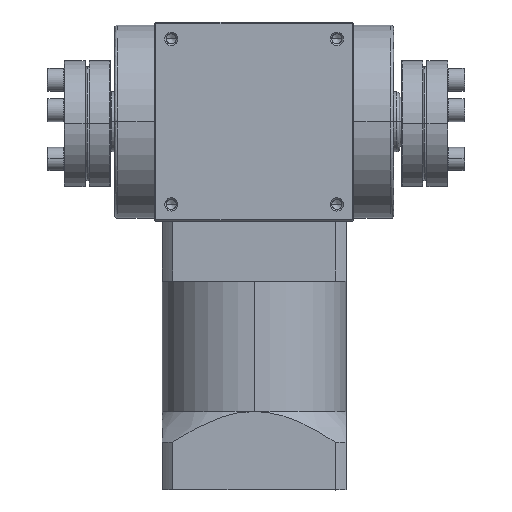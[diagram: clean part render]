
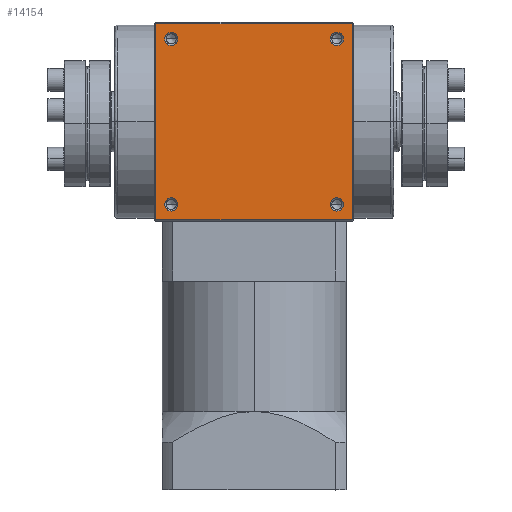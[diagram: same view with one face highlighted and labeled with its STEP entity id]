
A CAD part, top view. The second image highlights one B-rep face of the part: STEP entity #14154.
In plain terms, the highlighted planar face has unit normal (0, 0, 1).
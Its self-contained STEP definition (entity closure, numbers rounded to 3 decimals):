
#12 = EDGE_CURVE ( 'NONE', #14048, #15628, #5116, .T. ) ;
#46 = FACE_BOUND ( 'NONE', #11934, .T. ) ;
#160 = VERTEX_POINT ( 'NONE', #15407 ) ;
#286 = EDGE_LOOP ( 'NONE', ( #7346, #6356 ) ) ;
#393 = CARTESIAN_POINT ( 'NONE',  ( 0., -32., 32.5 ) ) ;
#455 = VERTEX_POINT ( 'NONE', #7461 ) ;
#1013 = EDGE_CURVE ( 'NONE', #3606, #160, #15200, .T. ) ;
#1285 = ORIENTED_EDGE ( 'NONE', *, *, #15383, .F. ) ;
#1314 = VECTOR ( 'NONE', #11630, 1000. ) ;
#1329 = VERTEX_POINT ( 'NONE', #3906 ) ;
#1379 = AXIS2_PLACEMENT_3D ( 'NONE', #7555, #17603, #9041 ) ;
#1713 = AXIS2_PLACEMENT_3D ( 'NONE', #14286, #5649, #15730 ) ;
#1726 = EDGE_CURVE ( 'NONE', #3606, #14048, #14292, .T. ) ;
#1881 = VECTOR ( 'NONE', #9911, 1000. ) ;
#2542 = ORIENTED_EDGE ( 'NONE', *, *, #17175, .F. ) ;
#2599 = CARTESIAN_POINT ( 'NONE',  ( 24.85, 27., 32.5 ) ) ;
#2769 = DIRECTION ( 'NONE',  ( 0., 1., 0. ) ) ;
#2840 = VERTEX_POINT ( 'NONE', #17294 ) ;
#2923 = AXIS2_PLACEMENT_3D ( 'NONE', #13483, #13514, #13635 ) ;
#2987 = CIRCLE ( 'NONE', #15363, 2.15 ) ;
#3061 = DIRECTION ( 'NONE',  ( 1., 0., 0. ) ) ;
#3072 = CARTESIAN_POINT ( 'NONE',  ( -27., -27., 32.5 ) ) ;
#3085 = EDGE_CURVE ( 'NONE', #2840, #8835, #17861, .T. ) ;
#3250 = EDGE_LOOP ( 'NONE', ( #7032, #1285 ) ) ;
#3445 = DIRECTION ( 'NONE',  ( 0., 0., 1. ) ) ;
#3584 = CARTESIAN_POINT ( 'NONE',  ( -32., 32., 32.5 ) ) ;
#3606 = VERTEX_POINT ( 'NONE', #8451 ) ;
#3751 = VECTOR ( 'NONE', #4699, 1000. ) ;
#3906 = CARTESIAN_POINT ( 'NONE',  ( 29.15, -27., 32.5 ) ) ;
#3909 = VERTEX_POINT ( 'NONE', #14282 ) ;
#4473 = DIRECTION ( 'NONE',  ( 1., 0., 0. ) ) ;
#4699 = DIRECTION ( 'NONE',  ( 1., 0., 0. ) ) ;
#4713 = DIRECTION ( 'NONE',  ( 0., 0., 1. ) ) ;
#4790 = ORIENTED_EDGE ( 'NONE', *, *, #14913, .F. ) ;
#4984 = CARTESIAN_POINT ( 'NONE',  ( 27., -27., 32.5 ) ) ;
#5116 = LINE ( 'NONE', #8854, #1314 ) ;
#5337 = CIRCLE ( 'NONE', #1713, 2.15 ) ;
#5615 = CIRCLE ( 'NONE', #1379, 2.15 ) ;
#5649 = DIRECTION ( 'NONE',  ( 0., 0., 1. ) ) ;
#5687 = AXIS2_PLACEMENT_3D ( 'NONE', #17671, #17419, #3061 ) ;
#6134 = EDGE_CURVE ( 'NONE', #15628, #160, #9504, .T. ) ;
#6310 = EDGE_CURVE ( 'NONE', #8089, #3909, #10184, .T. ) ;
#6356 = ORIENTED_EDGE ( 'NONE', *, *, #3085, .F. ) ;
#6444 = DIRECTION ( 'NONE',  ( 1., 0., 0. ) ) ;
#6701 = DIRECTION ( 'NONE',  ( 0., 0., -1. ) ) ;
#6984 = CARTESIAN_POINT ( 'NONE',  ( -32., 0., 32.5 ) ) ;
#7032 = ORIENTED_EDGE ( 'NONE', *, *, #18200, .F. ) ;
#7346 = ORIENTED_EDGE ( 'NONE', *, *, #9658, .F. ) ;
#7461 = CARTESIAN_POINT ( 'NONE',  ( -29.15, -27., 32.5 ) ) ;
#7555 = CARTESIAN_POINT ( 'NONE',  ( 27., 27., 32.5 ) ) ;
#7583 = EDGE_LOOP ( 'NONE', ( #13708, #9305, #12597, #16042 ) ) ;
#7768 = VERTEX_POINT ( 'NONE', #18375 ) ;
#8089 = VERTEX_POINT ( 'NONE', #2599 ) ;
#8112 = PLANE ( 'NONE',  #9577 ) ;
#8331 = ORIENTED_EDGE ( 'NONE', *, *, #6310, .F. ) ;
#8451 = CARTESIAN_POINT ( 'NONE',  ( -32., -32., 32.5 ) ) ;
#8835 = VERTEX_POINT ( 'NONE', #17337 ) ;
#8854 = CARTESIAN_POINT ( 'NONE',  ( 0., 32., 32.5 ) ) ;
#9041 = DIRECTION ( 'NONE',  ( 1., 0., 0. ) ) ;
#9174 = CARTESIAN_POINT ( 'NONE',  ( 24.85, -27., 32.5 ) ) ;
#9305 = ORIENTED_EDGE ( 'NONE', *, *, #6134, .F. ) ;
#9491 = CIRCLE ( 'NONE', #10185, 2.15 ) ;
#9504 = LINE ( 'NONE', #9952, #1881 ) ;
#9577 = AXIS2_PLACEMENT_3D ( 'NONE', #13902, #6701, #16772 ) ;
#9658 = EDGE_CURVE ( 'NONE', #8835, #2840, #17421, .T. ) ;
#9911 = DIRECTION ( 'NONE',  ( 0., -1., 0. ) ) ;
#9952 = CARTESIAN_POINT ( 'NONE',  ( 32., 0., 32.5 ) ) ;
#10184 = CIRCLE ( 'NONE', #2923, 2.15 ) ;
#10185 = AXIS2_PLACEMENT_3D ( 'NONE', #12080, #3445, #13518 ) ;
#10575 = AXIS2_PLACEMENT_3D ( 'NONE', #13361, #4713, #14786 ) ;
#10642 = FACE_BOUND ( 'NONE', #13690, .T. ) ;
#11630 = DIRECTION ( 'NONE',  ( 1., 0., 0. ) ) ;
#11934 = EDGE_LOOP ( 'NONE', ( #17917, #2542 ) ) ;
#12080 = CARTESIAN_POINT ( 'NONE',  ( -27., -27., 32.5 ) ) ;
#12597 = ORIENTED_EDGE ( 'NONE', *, *, #12, .F. ) ;
#13121 = DIRECTION ( 'NONE',  ( 0., 0., 1. ) ) ;
#13361 = CARTESIAN_POINT ( 'NONE',  ( -27., 27., 32.5 ) ) ;
#13483 = CARTESIAN_POINT ( 'NONE',  ( 27., 27., 32.5 ) ) ;
#13514 = DIRECTION ( 'NONE',  ( 0., 0., 1. ) ) ;
#13518 = DIRECTION ( 'NONE',  ( 1., 0., 0. ) ) ;
#13635 = DIRECTION ( 'NONE',  ( 1., 0., 0. ) ) ;
#13690 = EDGE_LOOP ( 'NONE', ( #4790, #8331 ) ) ;
#13708 = ORIENTED_EDGE ( 'NONE', *, *, #1013, .T. ) ;
#13902 = CARTESIAN_POINT ( 'NONE',  ( 32., -32., 32.5 ) ) ;
#14048 = VERTEX_POINT ( 'NONE', #3584 ) ;
#14093 = AXIS2_PLACEMENT_3D ( 'NONE', #3072, #13121, #4473 ) ;
#14154 = ADVANCED_FACE ( 'NONE', ( #14881, #10642, #46, #14443, #18246 ), #8112, .F. ) ;
#14282 = CARTESIAN_POINT ( 'NONE',  ( 29.15, 27., 32.5 ) ) ;
#14286 = CARTESIAN_POINT ( 'NONE',  ( 27., -27., 32.5 ) ) ;
#14292 = LINE ( 'NONE', #6984, #14740 ) ;
#14432 = EDGE_CURVE ( 'NONE', #7768, #455, #9491, .T. ) ;
#14443 = FACE_BOUND ( 'NONE', #3250, .T. ) ;
#14740 = VECTOR ( 'NONE', #2769, 1000. ) ;
#14786 = DIRECTION ( 'NONE',  ( 1., 0., 0. ) ) ;
#14881 = FACE_BOUND ( 'NONE', #286, .T. ) ;
#14913 = EDGE_CURVE ( 'NONE', #3909, #8089, #5615, .T. ) ;
#15056 = DIRECTION ( 'NONE',  ( 0., 0., 1. ) ) ;
#15200 = LINE ( 'NONE', #393, #3751 ) ;
#15363 = AXIS2_PLACEMENT_3D ( 'NONE', #4984, #15056, #6444 ) ;
#15383 = EDGE_CURVE ( 'NONE', #16944, #1329, #2987, .T. ) ;
#15407 = CARTESIAN_POINT ( 'NONE',  ( 32., -32., 32.5 ) ) ;
#15628 = VERTEX_POINT ( 'NONE', #17122 ) ;
#15704 = CIRCLE ( 'NONE', #14093, 2.15 ) ;
#15730 = DIRECTION ( 'NONE',  ( 1., 0., 0. ) ) ;
#16042 = ORIENTED_EDGE ( 'NONE', *, *, #1726, .F. ) ;
#16772 = DIRECTION ( 'NONE',  ( -1., 0., 0. ) ) ;
#16944 = VERTEX_POINT ( 'NONE', #9174 ) ;
#17122 = CARTESIAN_POINT ( 'NONE',  ( 32., 32., 32.5 ) ) ;
#17175 = EDGE_CURVE ( 'NONE', #455, #7768, #15704, .T. ) ;
#17294 = CARTESIAN_POINT ( 'NONE',  ( -29.15, 27., 32.5 ) ) ;
#17337 = CARTESIAN_POINT ( 'NONE',  ( -24.85, 27., 32.5 ) ) ;
#17419 = DIRECTION ( 'NONE',  ( 0., 0., 1. ) ) ;
#17421 = CIRCLE ( 'NONE', #10575, 2.15 ) ;
#17603 = DIRECTION ( 'NONE',  ( 0., 0., 1. ) ) ;
#17671 = CARTESIAN_POINT ( 'NONE',  ( -27., 27., 32.5 ) ) ;
#17861 = CIRCLE ( 'NONE', #5687, 2.15 ) ;
#17917 = ORIENTED_EDGE ( 'NONE', *, *, #14432, .F. ) ;
#18200 = EDGE_CURVE ( 'NONE', #1329, #16944, #5337, .T. ) ;
#18246 = FACE_OUTER_BOUND ( 'NONE', #7583, .T. ) ;
#18375 = CARTESIAN_POINT ( 'NONE',  ( -24.85, -27., 32.5 ) ) ;
